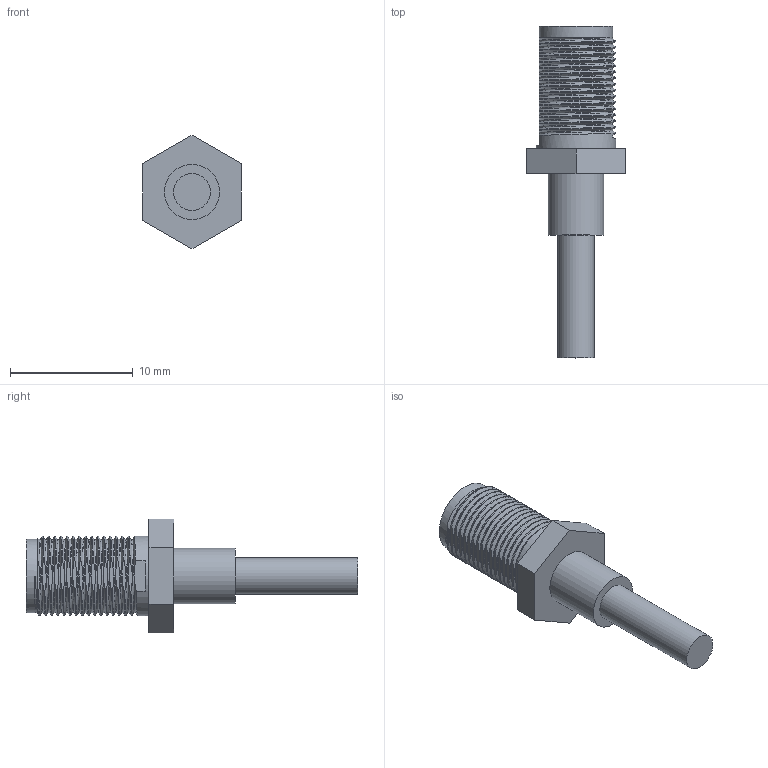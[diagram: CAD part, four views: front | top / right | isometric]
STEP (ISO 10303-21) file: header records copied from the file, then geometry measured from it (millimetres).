
FILE_DESCRIPTION(('FreeCAD Model'),'2;1');
FILE_NAME('Open CASCADE Shape Model','2023-05-06T18:44:57',('Author'),( ''),'Open CASCADE STEP processor 7.5','FreeCAD','Unknown');
FILE_SCHEMA(('AUTOMOTIVE_DESIGN { 1 0 10303 214 1 1 1 1 }'));
Length unit declared in the file: millimetre
Products named in the file (1): antenn connector
Bounding box: 8 x 27 x 9.24 mm (x, y, z)
Volume: 454.8 mm3; surface area: 797.6 mm2
Topology: 2 solids, 2 shells, 81 faces, 214 edges, 141 vertices
Faces by surface type: plane 40, cylinder 35, bspline 6
Full cylindrical faces by diameter (mm): 1 x1, 3 x1, 4 x11, 4.5 x1, 4.959 x1, 5.959 x1, 6.5 x1
Entity records: 5382 total; most frequent: CARTESIAN_POINT 3869, ORIENTED_EDGE 334, DIRECTION 228, EDGE_CURVE 167, VERTEX_POINT 113, EDGE_LOOP 82, AXIS2_PLACEMENT_3D 80, FACE_OUTER_BOUND 76
